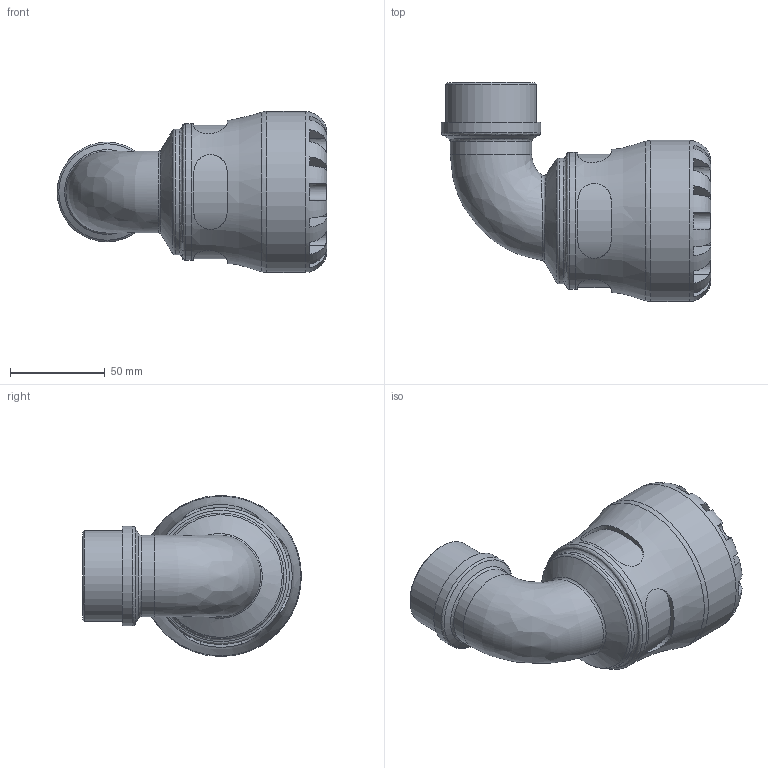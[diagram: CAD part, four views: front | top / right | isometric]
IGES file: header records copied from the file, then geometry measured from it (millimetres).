
Global section: file name: 107700050015_197700050015.ipt; native system: Autodesk Inventor 2015; preprocessor: unknown; author: KIM; date: 20170122.115510; units: millimetre
Bounding box: 142.29 x 115.5 x 85 mm (x, y, z)
Volume: 298543.3 mm3; surface area: 65468.1 mm2
Topology: 1 solids, 1 shells, 112 faces, 288 edges, 183 vertices
Faces by surface type: plane 60, revolution 28, cylinder 18, bspline 4, cone 2
Full cylindrical faces by diameter (mm): 43.023 x1, 47.803 x1, 52.583 x1, 66.3 x1, 72.25 x1, 85 x1
